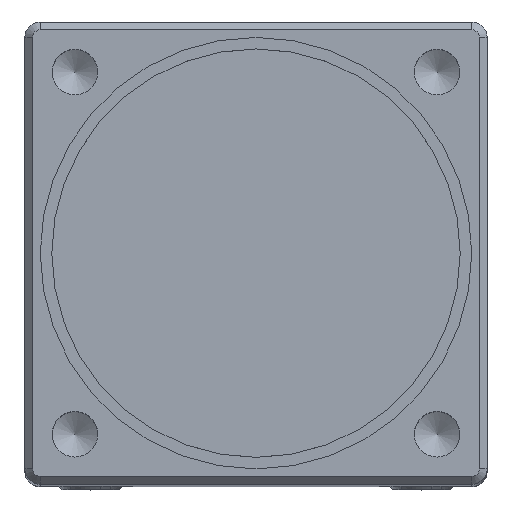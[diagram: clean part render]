
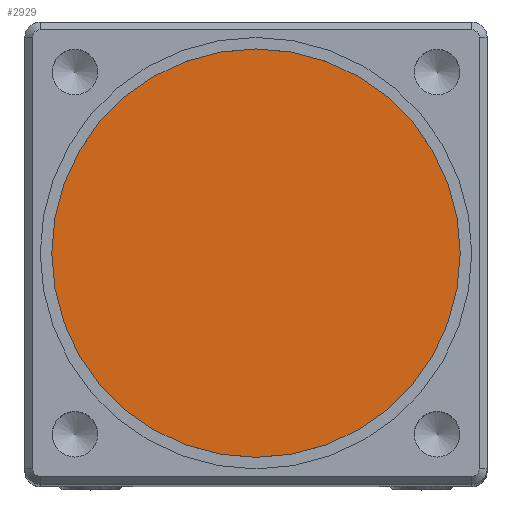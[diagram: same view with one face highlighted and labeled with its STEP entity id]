
A CAD part, top view. The second image highlights one B-rep face of the part: STEP entity #2929.
In plain terms, the highlighted planar face has unit normal (0, 0, 1).
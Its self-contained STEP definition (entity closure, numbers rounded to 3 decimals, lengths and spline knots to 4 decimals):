
#282=PLANE('',#3294);
#500=FACE_OUTER_BOUND('',#716,.T.);
#716=EDGE_LOOP('',(#2669));
#1217=CIRCLE('',#3292,5.6);
#1481=VERTEX_POINT('',#42779);
#1876=EDGE_CURVE('',#1481,#1481,#1217,.T.);
#2669=ORIENTED_EDGE('',*,*,#1876,.T.);
#2929=ADVANCED_FACE('',(#500),#282,.T.);
#3292=AXIS2_PLACEMENT_3D('',#42780,#4052,#4053);
#3294=AXIS2_PLACEMENT_3D('',#42784,#4057,#4058);
#4052=DIRECTION('center_axis',(0.,0.,1.));
#4053=DIRECTION('ref_axis',(1.,0.,0.));
#4057=DIRECTION('center_axis',(0.,0.,1.));
#4058=DIRECTION('ref_axis',(1.,0.,0.));
#42779=CARTESIAN_POINT('',(-5.6,0.,39.75));
#42780=CARTESIAN_POINT('Origin',(0.,0.,
39.75));
#42784=CARTESIAN_POINT('Origin',(0.,0.,39.75));
